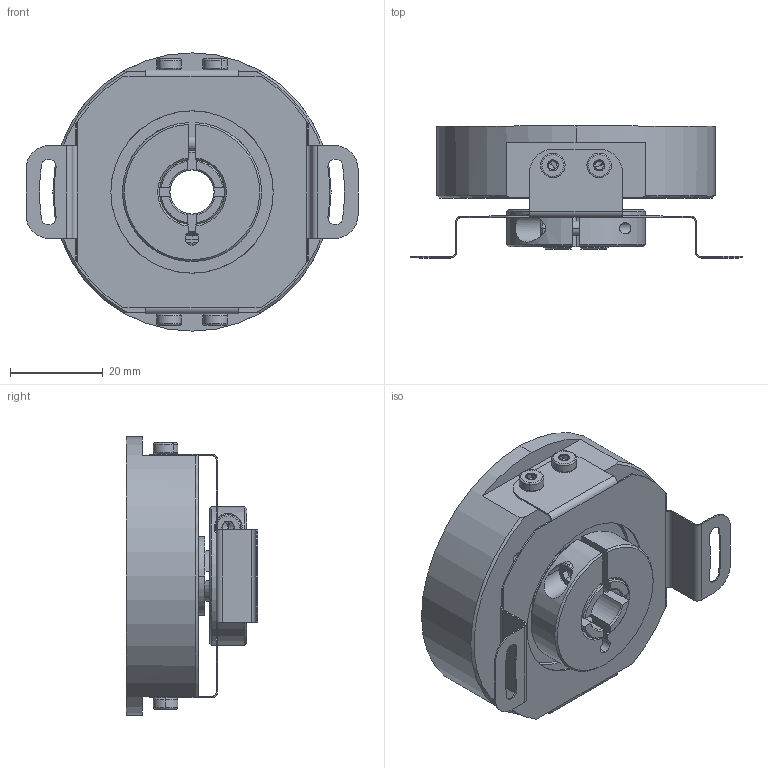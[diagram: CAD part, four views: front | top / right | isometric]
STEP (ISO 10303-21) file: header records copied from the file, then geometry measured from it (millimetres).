
FILE_DESCRIPTION (( 'STEP AP214' ), '1' );
FILE_NAME ('drawing-ucd-hspv-q5b-n.STEP', '2017-05-18T15:33:23', ( '' ), ( '' ), 'SwSTEP 2.0', 'SolidWorks 2017', '' );
FILE_SCHEMA (( 'AUTOMOTIVE_DESIGN' ));
Length unit declared in the file: millimetre
Products named in the file (1): drawing-ucd-hspv-q5b-n
Bounding box: 71.57 x 28.4 x 60 mm (x, y, z)
Volume: 42968.3 mm3; surface area: 30326 mm2
Topology: 24 solids, 24 shells, 1077 faces, 2564 edges, 1527 vertices
Faces by surface type: cone 358, cylinder 275, plane 264, bspline 136, torus 44
Entity records: 49350 total; most frequent: CARTESIAN_POINT 13004, DIRECTION 5088, ORIENTED_EDGE 5012, EDGE_CURVE 2506, AXIS2_PLACEMENT_3D 1988, VERTEX_POINT 1527, EDGE_LOOP 1167, VECTOR 1112
